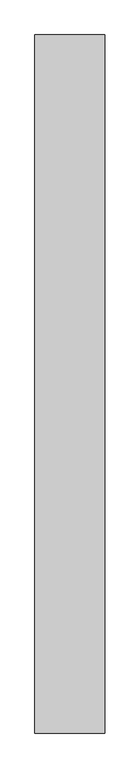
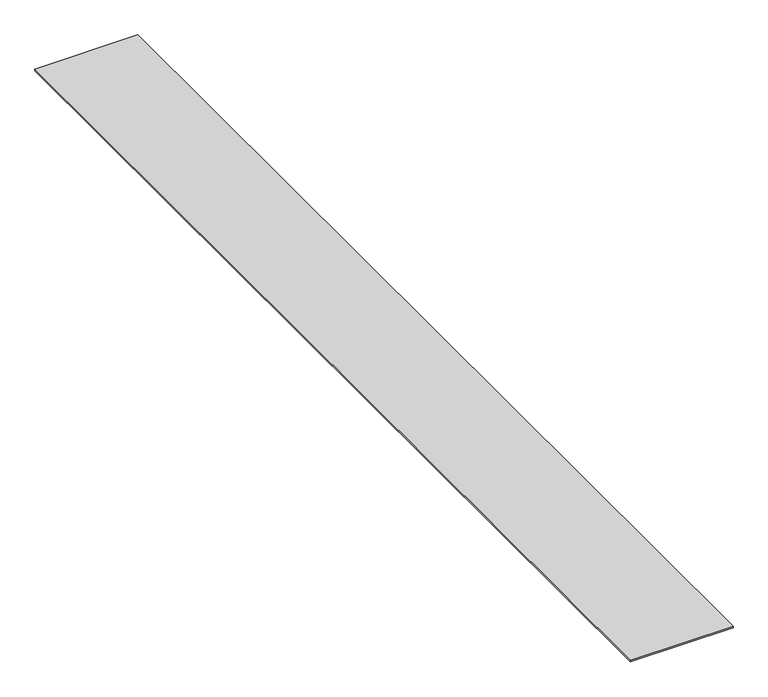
"""IFC4 building model written with IfcOpenShell, lengths in millimetres: proxy geometry, AQUAPANEL Tape (10 cm) : AQUAPANEL Tape (10 cm)."""

from ifc_helpers import new_model, si_unit, origin, origin_with_axes, place, context, project, spatial, polyline, outline, extrude, source, transform, mapped, element, save


def generic_models_524f5df3(model_context):
    return source(origin(), model_context, "Body", "SweptSolid", [
        extrude(outline(polyline([(17211.4421741, 18350.9190852), (17211.4421741, 16350.9190852), (17011.4421741, 16350.9190852), (17011.4421741, 18350.9190852), (17211.4421741, 18350.9190852)])), origin_with_axes(), (0.0, 0.0, 1.0), 3.0),
    ])


if __name__ == "__main__":
    model = new_model("IFC4")
    model_context = context("Model", 3, world=origin())
    ifc_project = project(units=[si_unit("LENGTHUNIT", "METRE", prefix="MILLI")], contexts=[model_context])
    site = spatial("IfcSite", under=ifc_project)
    building = spatial("IfcBuilding", under=site)
    placement = place(None, origin())
    generic_models_shape = generic_models_524f5df3(model_context)
    element("IfcBuildingElementProxy", 1, Name="AQUAPANEL Tape (10 cm) : AQUAPANEL Tape (10 cm)", ObjectType="AQUAPANEL Tape (10 cm) : AQUAPANEL Tape (10 cm)", at=placement, inside=building, context=model_context, shape_type="MappedRepresentation", body=[
        mapped(generic_models_shape, transform((0.0, 0.0, 0.0), x_axis=(1.0, 0.0, 0.0), y_axis=(0.0, 1.0, 0.0), z_axis=(0.0, 0.0, 1.0))),
    ])
    save(model, "model.ifc")
